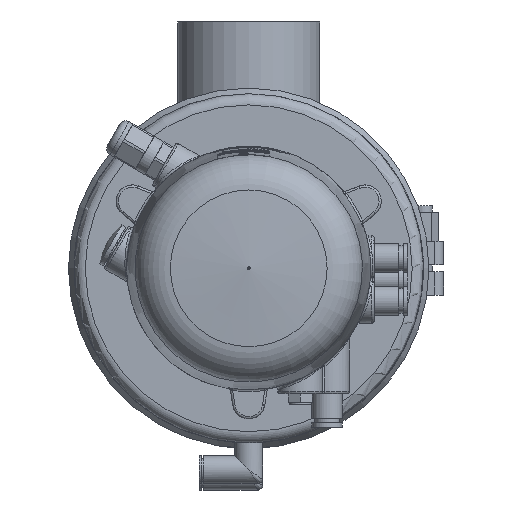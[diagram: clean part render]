
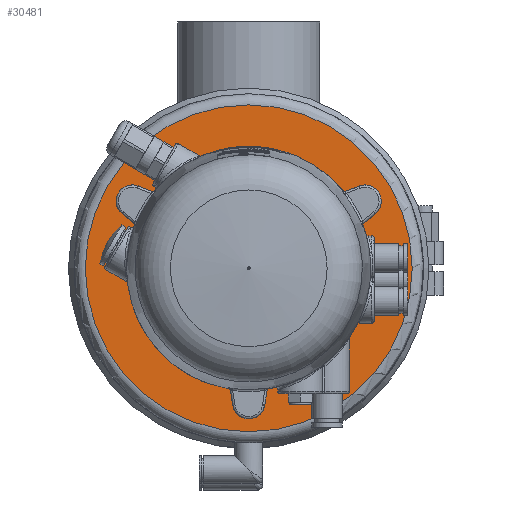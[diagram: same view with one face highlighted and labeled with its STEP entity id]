
A CAD part, front view. The second image highlights one B-rep face of the part: STEP entity #30481.
In plain terms, the highlighted planar face has unit normal (0, -1, 0) as drawn and (0, 1, 0) by its records, which use the part's own axes.
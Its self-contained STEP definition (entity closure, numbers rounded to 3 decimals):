
#154 = EDGE_LOOP ( 'NONE', ( #55798 ) ) ;
#669 = VERTEX_POINT ( 'NONE', #25879 ) ;
#2206 = CARTESIAN_POINT ( 'NONE',  ( 0., 263., 17.5 ) ) ;
#3580 = EDGE_LOOP ( 'NONE', ( #31849 ) ) ;
#5000 = AXIS2_PLACEMENT_3D ( 'NONE', #63530, #18745, #38664 ) ;
#5534 = AXIS2_PLACEMENT_3D ( 'NONE', #2206, #42102, #62053 ) ;
#7182 = AXIS2_PLACEMENT_3D ( 'NONE', #41462, #40493, #50660 ) ;
#11793 = AXIS2_PLACEMENT_3D ( 'NONE', #25349, #50203, #55423 ) ;
#14325 = EDGE_LOOP ( 'NONE', ( #42123 ) ) ;
#15080 = CARTESIAN_POINT ( 'NONE',  ( 0., 263., 0. ) ) ;
#18745 = DIRECTION ( 'NONE',  ( 0., 1., 0. ) ) ;
#19784 = CARTESIAN_POINT ( 'NONE',  ( 0., 263., -73. ) ) ;
#23060 = AXIS2_PLACEMENT_3D ( 'NONE', #15080, #54264, #54911 ) ;
#23404 = ORIENTED_EDGE ( 'NONE', *, *, #61247, .F. ) ;
#24367 = EDGE_CURVE ( 'NONE', #44713, #44713, #35777, .T. ) ;
#25017 = FACE_BOUND ( 'NONE', #154, .T. ) ;
#25349 = CARTESIAN_POINT ( 'NONE',  ( -78., 263., 0. ) ) ;
#25879 = CARTESIAN_POINT ( 'NONE',  ( 0., 263., -10. ) ) ;
#25975 = FACE_BOUND ( 'NONE', #57433, .T. ) ;
#30481 = ADVANCED_FACE ( 'NONE', ( #25975, #55740, #60976, #25017 ), #40043, .F. ) ;
#31849 = ORIENTED_EDGE ( 'NONE', *, *, #24367, .F. ) ;
#33408 = CIRCLE ( 'NONE', #23060, 10. ) ;
#33981 = VERTEX_POINT ( 'NONE', #62822 ) ;
#35286 = CIRCLE ( 'NONE', #7182, 2.1 ) ;
#35777 = CIRCLE ( 'NONE', #5534, 2.1 ) ;
#38081 = EDGE_CURVE ( 'NONE', #64581, #64581, #49929, .T. ) ;
#38664 = DIRECTION ( 'NONE',  ( 0., 0., -1. ) ) ;
#40043 = PLANE ( 'NONE',  #11793 ) ;
#40493 = DIRECTION ( 'NONE',  ( 0., 1., 0. ) ) ;
#41462 = CARTESIAN_POINT ( 'NONE',  ( 0., 263., -17.5 ) ) ;
#42102 = DIRECTION ( 'NONE',  ( 0., 1., 0. ) ) ;
#42123 = ORIENTED_EDGE ( 'NONE', *, *, #38081, .T. ) ;
#44713 = VERTEX_POINT ( 'NONE', #59088 ) ;
#49929 = CIRCLE ( 'NONE', #5000, 73. ) ;
#50203 = DIRECTION ( 'NONE',  ( 0., -1., 0. ) ) ;
#50660 = DIRECTION ( 'NONE',  ( 0., 0., 1. ) ) ;
#53749 = EDGE_CURVE ( 'NONE', #669, #669, #33408, .T. ) ;
#54264 = DIRECTION ( 'NONE',  ( 0., -1., 0. ) ) ;
#54911 = DIRECTION ( 'NONE',  ( 0., 0., -1. ) ) ;
#55423 = DIRECTION ( 'NONE',  ( 0., 0., -1. ) ) ;
#55740 = FACE_BOUND ( 'NONE', #3580, .T. ) ;
#55798 = ORIENTED_EDGE ( 'NONE', *, *, #53749, .T. ) ;
#57433 = EDGE_LOOP ( 'NONE', ( #23404 ) ) ;
#59088 = CARTESIAN_POINT ( 'NONE',  ( 0., 263., 19.6 ) ) ;
#60976 = FACE_OUTER_BOUND ( 'NONE', #14325, .T. ) ;
#61247 = EDGE_CURVE ( 'NONE', #33981, #33981, #35286, .T. ) ;
#62053 = DIRECTION ( 'NONE',  ( 0., 0., 1. ) ) ;
#62822 = CARTESIAN_POINT ( 'NONE',  ( 0., 263., -15.4 ) ) ;
#63530 = CARTESIAN_POINT ( 'NONE',  ( 0., 263., 0. ) ) ;
#64581 = VERTEX_POINT ( 'NONE', #19784 ) ;
